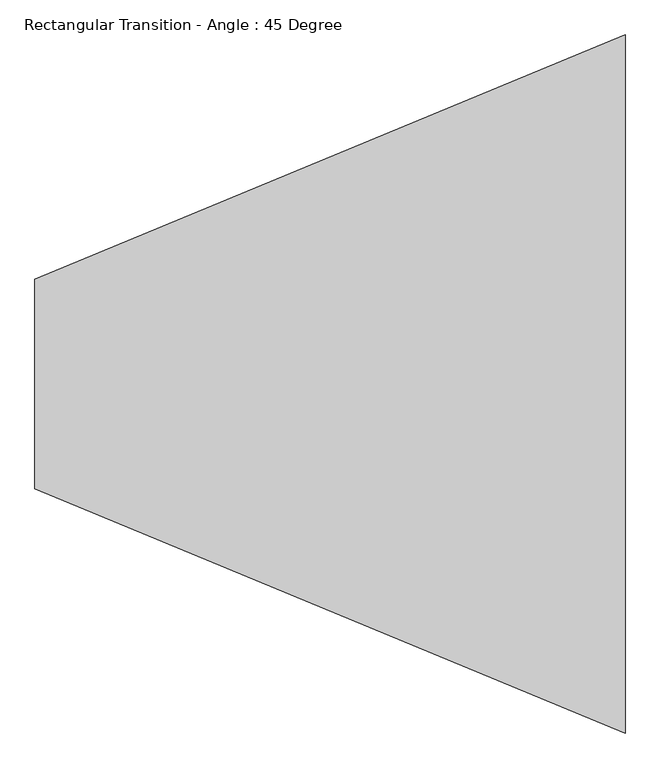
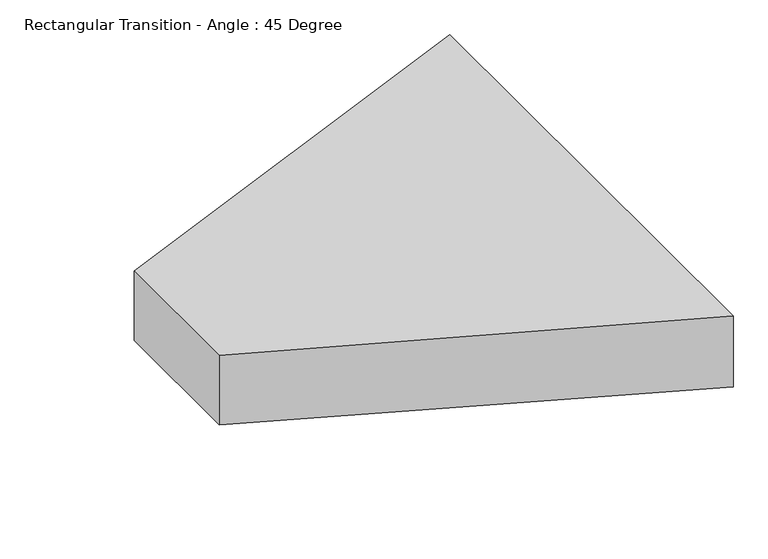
"""IFC4 building model written with IfcOpenShell, lengths in millimetres: duct fitting geometry, Rectangular Transition - Angle : 45 Degree."""

from ifc_helpers import new_model, si_unit, origin, place, context, project, spatial, faceted_brep, source, transform, mapped, element, save


def rectangular_transition_angle_45_degree_05e1d5e5(model_context):
    return source(origin(), model_context, "Body", "Brep", [
        faceted_brep([(1145.936645, -677.8625, 103.1875), (1145.936645, -677.8625, -103.1875), (1145.936645, 677.8625, -103.1875), (1145.936645, 677.8625, 103.1875), (0.0, -203.2, 101.6), (0.0, 203.2, 101.6), (0.0, 203.2, -101.6), (0.0, -203.2, -101.6)], [[[0, 1, 2, 3]], [[4, 5, 6, 7]], [[4, 7, 1, 0]], [[7, 6, 2, 1]], [[6, 5, 3, 2]], [[5, 4, 0, 3]]]),
    ])


if __name__ == "__main__":
    model = new_model("IFC4")
    model_context = context("Model", 3, world=origin())
    ifc_project = project(units=[si_unit("LENGTHUNIT", "METRE", prefix="MILLI")], contexts=[model_context])
    site = spatial("IfcSite", under=ifc_project)
    building = spatial("IfcBuilding", under=site)
    placement = place(None, origin())
    rectangular_transition_angle_45_degree_shape = rectangular_transition_angle_45_degree_05e1d5e5(model_context)
    element("IfcDuctFitting", 1, ObjectType="Rectangular Transition - Angle : 45 Degree", at=placement, inside=building, context=model_context, shape_type="MappedRepresentation", body=[
        mapped(rectangular_transition_angle_45_degree_shape, transform((0.0, 0.0, 0.0), x_axis=(1.0, 0.0, 0.0), y_axis=(0.0, 1.0, 0.0), z_axis=(0.0, 0.0, 1.0))),
    ])
    save(model, "model.ifc")
